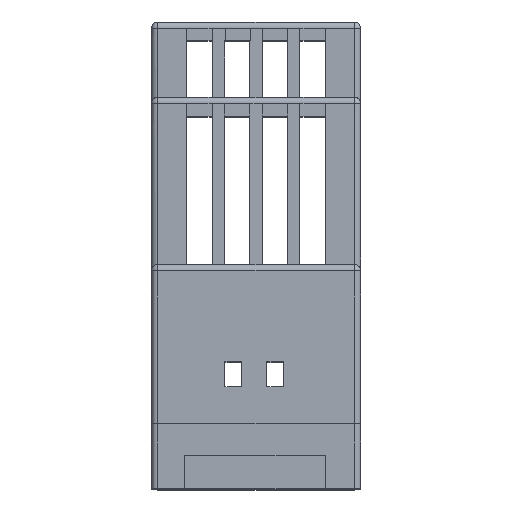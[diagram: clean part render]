
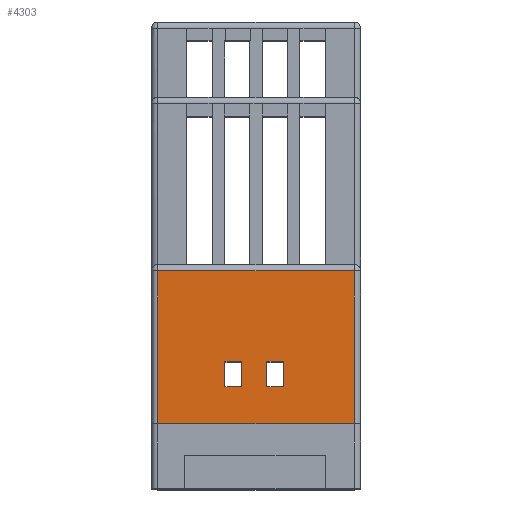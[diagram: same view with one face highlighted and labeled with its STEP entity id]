
A CAD part, top view. The second image highlights one B-rep face of the part: STEP entity #4303.
In plain terms, the highlighted planar face has unit normal (0, 0, 1).
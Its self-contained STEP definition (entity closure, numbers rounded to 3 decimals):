
#97 = VERTEX_POINT ( 'NONE', #6941 ) ;
#209 = CARTESIAN_POINT ( 'NONE',  ( 0.75, 0., 46. ) ) ;
#332 = DIRECTION ( 'NONE',  ( 0., 1., 0. ) ) ;
#567 = AXIS2_PLACEMENT_3D ( 'NONE', #3939, #7250, #10546 ) ;
#596 = VECTOR ( 'NONE', #5174, 1000. ) ;
#627 = PLANE ( 'NONE',  #567 ) ;
#663 = CARTESIAN_POINT ( 'NONE',  ( 13.791, 0., 46. ) ) ;
#871 = ORIENTED_EDGE ( 'NONE', *, *, #9405, .T. ) ;
#1098 = LINE ( 'NONE', #4423, #7454 ) ;
#1138 = ORIENTED_EDGE ( 'NONE', *, *, #7027, .F. ) ;
#1143 = CARTESIAN_POINT ( 'NONE',  ( 10.791, 0., 46. ) ) ;
#1163 = LINE ( 'NONE', #4484, #9007 ) ;
#1332 = CARTESIAN_POINT ( 'NONE',  ( 15.791, 4.433, 46. ) ) ;
#1436 = FACE_OUTER_BOUND ( 'NONE', #4390, .T. ) ;
#1511 = DIRECTION ( 'NONE',  ( 0., 1., 0. ) ) ;
#1649 = VECTOR ( 'NONE', #8781, 1000. ) ;
#1850 = CARTESIAN_POINT ( 'NONE',  ( 25., 4.433, 46. ) ) ;
#2144 = CARTESIAN_POINT ( 'NONE',  ( 8.791, 0., 46. ) ) ;
#2157 = LINE ( 'NONE', #5480, #1649 ) ;
#2174 = ORIENTED_EDGE ( 'NONE', *, *, #2877, .F. ) ;
#2362 = ORIENTED_EDGE ( 'NONE', *, *, #10343, .F. ) ;
#2427 = DIRECTION ( 'NONE',  ( -1., 0., 0. ) ) ;
#2877 = EDGE_CURVE ( 'NONE', #4753, #10220, #1163, .T. ) ;
#2917 = CARTESIAN_POINT ( 'NONE',  ( 0.75, 18.25, 46. ) ) ;
#3017 = VECTOR ( 'NONE', #2427, 1000. ) ;
#3128 = CARTESIAN_POINT ( 'NONE',  ( 25., 7.433, 46. ) ) ;
#3155 = ORIENTED_EDGE ( 'NONE', *, *, #9013, .F. ) ;
#3431 = CARTESIAN_POINT ( 'NONE',  ( 8.791, 4.433, 46. ) ) ;
#3515 = DIRECTION ( 'NONE',  ( 0., -1., 0. ) ) ;
#3702 = VERTEX_POINT ( 'NONE', #7490 ) ;
#3904 = VECTOR ( 'NONE', #4465, 1000. ) ;
#3939 = CARTESIAN_POINT ( 'NONE',  ( 25., 0., 46. ) ) ;
#3978 = DIRECTION ( 'NONE',  ( 0., 1., 0. ) ) ;
#4008 = CARTESIAN_POINT ( 'NONE',  ( 0.75, 0., 46. ) ) ;
#4282 = CARTESIAN_POINT ( 'NONE',  ( 24.25, 0., 46. ) ) ;
#4303 = ADVANCED_FACE ( 'NONE', ( #1436, #4760, #8063 ), #627, .F. ) ;
#4384 = VERTEX_POINT ( 'NONE', #7449 ) ;
#4390 = EDGE_LOOP ( 'NONE', ( #3155, #5013, #5031, #6120 ) ) ;
#4423 = CARTESIAN_POINT ( 'NONE',  ( 25., 0., 46. ) ) ;
#4439 = VERTEX_POINT ( 'NONE', #3431 ) ;
#4465 = DIRECTION ( 'NONE',  ( 0., 1., 0. ) ) ;
#4468 = LINE ( 'NONE', #7769, #6150 ) ;
#4484 = CARTESIAN_POINT ( 'NONE',  ( 25., 7.433, 46. ) ) ;
#4684 = EDGE_CURVE ( 'NONE', #7784, #3702, #8104, .T. ) ;
#4753 = VERTEX_POINT ( 'NONE', #5714 ) ;
#4760 = FACE_BOUND ( 'NONE', #5536, .T. ) ;
#4911 = ORIENTED_EDGE ( 'NONE', *, *, #7370, .T. ) ;
#4927 = ORIENTED_EDGE ( 'NONE', *, *, #9481, .F. ) ;
#4939 = EDGE_LOOP ( 'NONE', ( #2362, #9599, #4911, #2174 ) ) ;
#5013 = ORIENTED_EDGE ( 'NONE', *, *, #8241, .T. ) ;
#5031 = ORIENTED_EDGE ( 'NONE', *, *, #6922, .T. ) ;
#5174 = DIRECTION ( 'NONE',  ( -1., 0., 0. ) ) ;
#5460 = DIRECTION ( 'NONE',  ( 0., 1., 0. ) ) ;
#5480 = CARTESIAN_POINT ( 'NONE',  ( 25., 18.25, 46. ) ) ;
#5536 = EDGE_LOOP ( 'NONE', ( #871, #8969, #1138, #4927 ) ) ;
#5542 = VERTEX_POINT ( 'NONE', #4008 ) ;
#5575 = EDGE_CURVE ( 'NONE', #4384, #4439, #6559, .T. ) ;
#5582 = CARTESIAN_POINT ( 'NONE',  ( 24.25, 18.25, 46. ) ) ;
#5638 = LINE ( 'NONE', #8945, #8930 ) ;
#5714 = CARTESIAN_POINT ( 'NONE',  ( 10.791, 7.433, 46. ) ) ;
#6120 = ORIENTED_EDGE ( 'NONE', *, *, #8013, .T. ) ;
#6150 = VECTOR ( 'NONE', #332, 1000. ) ;
#6448 = DIRECTION ( 'NONE',  ( -1., 0., 0. ) ) ;
#6559 = LINE ( 'NONE', #9860, #3017 ) ;
#6753 = VERTEX_POINT ( 'NONE', #4282 ) ;
#6863 = VECTOR ( 'NONE', #5460, 1000. ) ;
#6895 = VERTEX_POINT ( 'NONE', #2917 ) ;
#6922 = EDGE_CURVE ( 'NONE', #8438, #6895, #2157, .T. ) ;
#6941 = CARTESIAN_POINT ( 'NONE',  ( 15.791, 7.433, 46. ) ) ;
#7027 = EDGE_CURVE ( 'NONE', #97, #3702, #10558, .T. ) ;
#7168 = VECTOR ( 'NONE', #3978, 1000. ) ;
#7207 = VECTOR ( 'NONE', #6448, 1000. ) ;
#7250 = DIRECTION ( 'NONE',  ( 0., 0., -1. ) ) ;
#7370 = EDGE_CURVE ( 'NONE', #4439, #10220, #9574, .T. ) ;
#7449 = CARTESIAN_POINT ( 'NONE',  ( 10.791, 4.433, 46. ) ) ;
#7454 = VECTOR ( 'NONE', #7729, 1000. ) ;
#7490 = CARTESIAN_POINT ( 'NONE',  ( 13.791, 7.433, 46. ) ) ;
#7640 = LINE ( 'NONE', #209, #8090 ) ;
#7729 = DIRECTION ( 'NONE',  ( -1., 0., 0. ) ) ;
#7769 = CARTESIAN_POINT ( 'NONE',  ( 15.791, 0., 46. ) ) ;
#7784 = VERTEX_POINT ( 'NONE', #8697 ) ;
#7786 = DIRECTION ( 'NONE',  ( -1., 0., 0. ) ) ;
#8013 = EDGE_CURVE ( 'NONE', #6895, #5542, #7640, .T. ) ;
#8063 = FACE_BOUND ( 'NONE', #4939, .T. ) ;
#8090 = VECTOR ( 'NONE', #3515, 1000. ) ;
#8104 = LINE ( 'NONE', #663, #7168 ) ;
#8241 = EDGE_CURVE ( 'NONE', #6753, #8438, #5638, .T. ) ;
#8359 = CARTESIAN_POINT ( 'NONE',  ( 8.791, 7.433, 46. ) ) ;
#8438 = VERTEX_POINT ( 'NONE', #5582 ) ;
#8581 = LINE ( 'NONE', #1143, #3904 ) ;
#8697 = CARTESIAN_POINT ( 'NONE',  ( 13.791, 4.433, 46. ) ) ;
#8716 = VERTEX_POINT ( 'NONE', #1332 ) ;
#8781 = DIRECTION ( 'NONE',  ( -1., 0., 0. ) ) ;
#8930 = VECTOR ( 'NONE', #1511, 1000. ) ;
#8945 = CARTESIAN_POINT ( 'NONE',  ( 24.25, 19., 46. ) ) ;
#8969 = ORIENTED_EDGE ( 'NONE', *, *, #4684, .T. ) ;
#9007 = VECTOR ( 'NONE', #7786, 1000. ) ;
#9013 = EDGE_CURVE ( 'NONE', #6753, #5542, #1098, .T. ) ;
#9287 = LINE ( 'NONE', #1850, #596 ) ;
#9405 = EDGE_CURVE ( 'NONE', #8716, #7784, #9287, .T. ) ;
#9481 = EDGE_CURVE ( 'NONE', #8716, #97, #4468, .T. ) ;
#9574 = LINE ( 'NONE', #2144, #6863 ) ;
#9599 = ORIENTED_EDGE ( 'NONE', *, *, #5575, .T. ) ;
#9860 = CARTESIAN_POINT ( 'NONE',  ( 25., 4.433, 46. ) ) ;
#10220 = VERTEX_POINT ( 'NONE', #8359 ) ;
#10343 = EDGE_CURVE ( 'NONE', #4384, #4753, #8581, .T. ) ;
#10546 = DIRECTION ( 'NONE',  ( -1., 0., 0. ) ) ;
#10558 = LINE ( 'NONE', #3128, #7207 ) ;
